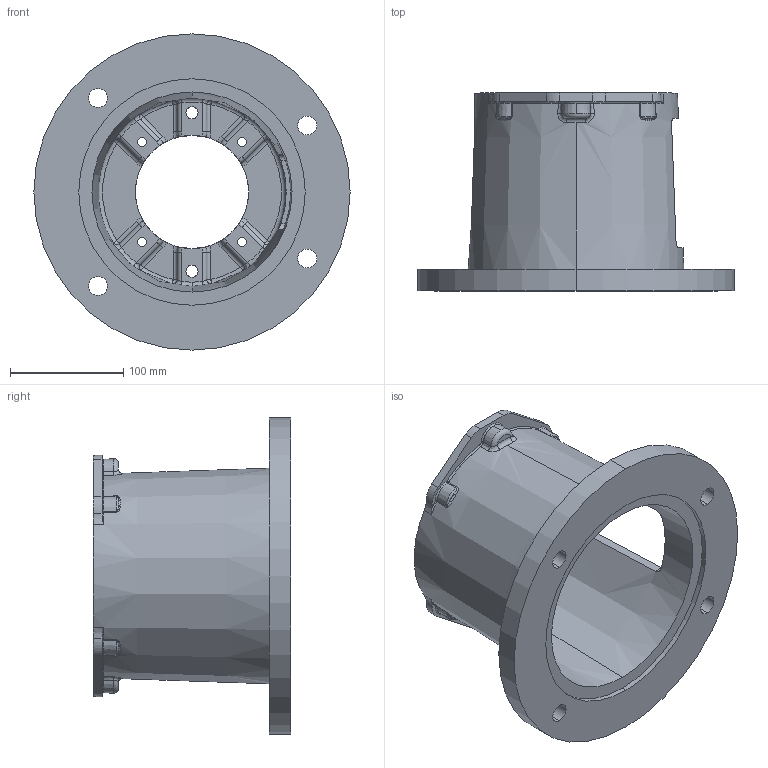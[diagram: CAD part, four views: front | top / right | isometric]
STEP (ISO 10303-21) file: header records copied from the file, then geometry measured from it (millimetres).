
FILE_DESCRIPTION (( 'STEP AP203' ), '1' );
FILE_NAME ('E78768100M.STEP', '2014-11-04T13:51:58', ( '' ), ( '' ), 'SwSTEP 2.0', 'SolidWorks 2014', '' );
FILE_SCHEMA (( 'CONFIG_CONTROL_DESIGN' ));
Length unit declared in the file: inch
Products named in the file (1): E78768100M
Bounding box: 279.4 x 174.75 x 279.4 mm (x, y, z)
Volume: 1454598.1 mm3; surface area: 304792.9 mm2
Topology: 1 solids, 1 shells, 352 faces, 896 edges, 536 vertices
Faces by surface type: torus 104, cylinder 86, bspline 64, plane 50, sphere 24, cone 24
Entity records: 14225 total; most frequent: CARTESIAN_POINT 6027, ORIENTED_EDGE 1768, DIRECTION 1722, EDGE_CURVE 884, AXIS2_PLACEMENT_3D 781, VERTEX_POINT 536, CIRCLE 492, EDGE_LOOP 378
